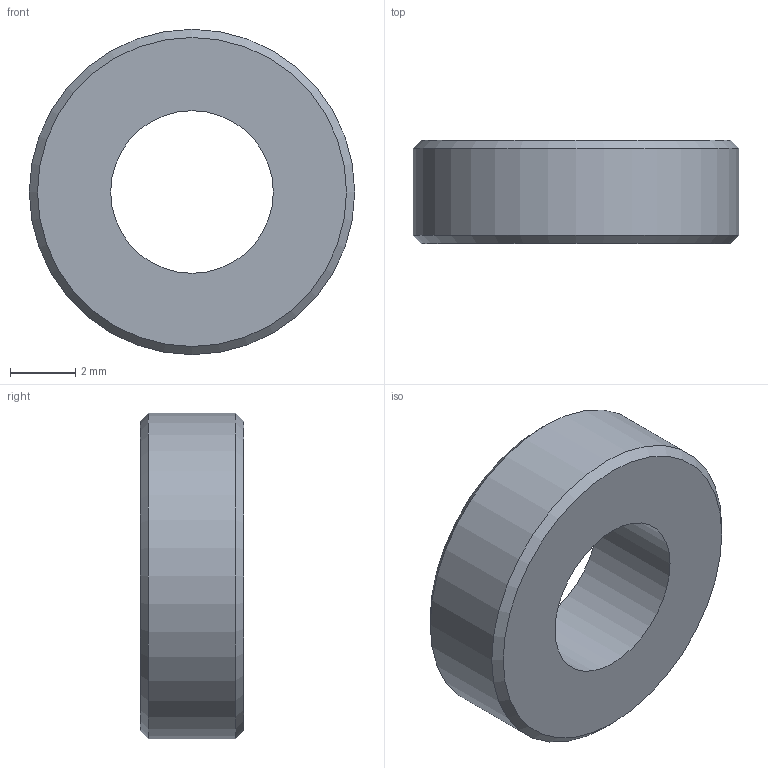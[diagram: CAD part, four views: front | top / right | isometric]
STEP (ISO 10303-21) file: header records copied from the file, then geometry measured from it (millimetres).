
FILE_DESCRIPTION(/* description */ ('','CAx-IF Rec.Pracs.---Representation and Presentation of Product Manufacturing Information (PMI)---4.0---2014-10-13'),/* implementation_level */ '2;1');
FILE_NAME(/* name */ 'Aluminium Spacer - 5mm - 0.125in.step',/* time_stamp */ '2024-12-04T06:53:27+02:00',/* author */ (''),/* organization */ (''),/* preprocessor_version */ 'ST-DEVELOPER v20',/* originating_system */ 'Autodesk Translation Framework v13.20.0.188',/* authorisation */ '');
FILE_SCHEMA (('AP242_MANAGED_MODEL_BASED_3D_ENGINEERING_MIM_LF { 1 0 10303 442 1 1 4 }'));
Length unit declared in the file: millimetre
Products named in the file (1): Aluminium Spacer -  5mm - 1/8
Bounding box: 10 x 3.17 x 10 mm (x, y, z)
Volume: 185.1 mm3; surface area: 258.1 mm2
Topology: 1 solids, 1 shells, 6 faces, 10 edges, 6 vertices
Faces by surface type: cone 2, cylinder 2, plane 2
Full cylindrical faces by diameter (mm): 5 x1, 10 x1
Entity records: 181 total; most frequent: DIRECTION 30, CARTESIAN_POINT 23, ORIENTED_EDGE 20, AXIS2_PLACEMENT_3D 13, EDGE_CURVE 10, EDGE_LOOP 8, FACE_OUTER_BOUND 6, CIRCLE 6
